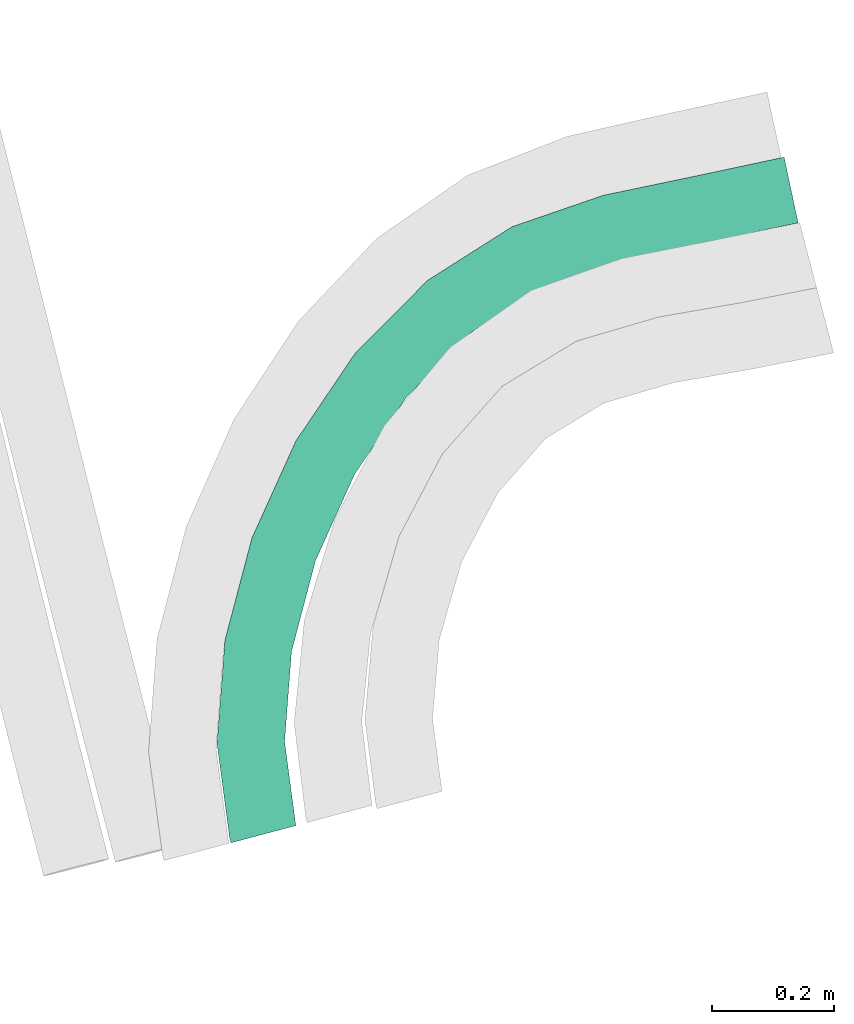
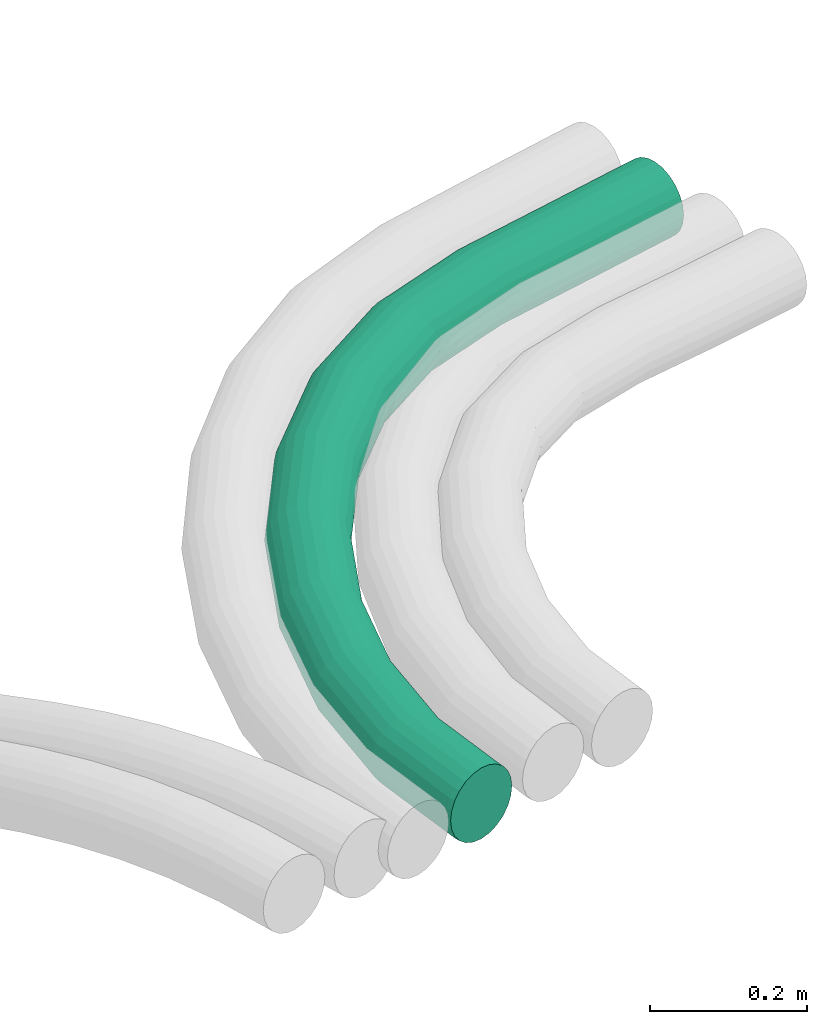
# One storey, part 5 of 6: 1 flow segment.
"""IFC2X3 building model written with IfcOpenShell, lengths in centimetres."""

from ifc_helpers import new_model, entity, si_unit, converted_unit, derived_unit, direction, frame, origin, place, context, subcontext, project, spatial, faceted_brep, type_object, element, save


model = new_model("IFC2X3")

# Units and contexts
model_context = context("Model", 3, precision=0.001, world=origin(), true_north=direction((6.12303176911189e-17, 1.0)))
body_context = subcontext(model_context, "Body", "Model", "MODEL_VIEW")
ifc_project = project(units=[si_unit("LENGTHUNIT", "METRE", prefix="CENTI"), si_unit("AREAUNIT", "SQUARE_METRE"), si_unit("VOLUMEUNIT", "CUBIC_METRE"), converted_unit("PLANEANGLEUNIT", "DEGREE", entity("IfcRatioMeasure", 0.0174532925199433), si_unit("PLANEANGLEUNIT", "RADIAN"), dimensions=[0, 0, 0, 0, 0, 0, 0]), si_unit("MASSUNIT", "GRAM", prefix="KILO"), derived_unit("MASSDENSITYUNIT", [(si_unit("MASSUNIT", "GRAM", prefix="KILO"), 1), (si_unit("LENGTHUNIT", "METRE"), -3)]), si_unit("TIMEUNIT", "SECOND"), si_unit("FREQUENCYUNIT", "HERTZ"), si_unit("THERMODYNAMICTEMPERATUREUNIT", "DEGREE_CELSIUS"), derived_unit("THERMALTRANSMITTANCEUNIT", [(si_unit("MASSUNIT", "GRAM", prefix="KILO"), 1), (si_unit("THERMODYNAMICTEMPERATUREUNIT", "KELVIN"), -1), (si_unit("TIMEUNIT", "SECOND"), -3)]), derived_unit("VOLUMETRICFLOWRATEUNIT", [(si_unit("LENGTHUNIT", "METRE"), 3), (si_unit("TIMEUNIT", "SECOND"), -1)]), si_unit("ELECTRICCURRENTUNIT", "AMPERE"), si_unit("ELECTRICVOLTAGEUNIT", "VOLT"), si_unit("POWERUNIT", "WATT"), si_unit("FORCEUNIT", "NEWTON"), si_unit("ILLUMINANCEUNIT", "LUX"), si_unit("LUMINOUSFLUXUNIT", "LUMEN"), si_unit("LUMINOUSINTENSITYUNIT", "CANDELA"), derived_unit("USERDEFINED", [(si_unit("MASSUNIT", "GRAM", prefix="KILO"), -1), (si_unit("LENGTHUNIT", "METRE"), -2), (si_unit("TIMEUNIT", "SECOND"), 3), (si_unit("LUMINOUSFLUXUNIT", "LUMEN"), 1)]), derived_unit("LINEARVELOCITYUNIT", [(si_unit("LENGTHUNIT", "METRE"), 1), (si_unit("TIMEUNIT", "SECOND"), -1)]), si_unit("PRESSUREUNIT", "PASCAL"), derived_unit("USERDEFINED", [(si_unit("LENGTHUNIT", "METRE"), -2), (si_unit("MASSUNIT", "GRAM", prefix="KILO"), 1), (si_unit("TIMEUNIT", "SECOND"), -2)])], contexts=[model_context])

# Site, building, storey
site_placement = place(None, origin())
site = spatial("IfcSite", under=ifc_project, at=site_placement, Name="Default", CompositionType="ELEMENT")
building_placement = place(site_placement, origin())
building = spatial("IfcBuilding", under=site, at=building_placement, Name="CAGE 03", CompositionType="ELEMENT")
storey_placement = place(building_placement, frame((0.0, 0.0, -23.0)))
storey = spatial("IfcBuildingStorey", under=building, at=storey_placement, Name="+3.77", CompositionType="ELEMENT", Elevation=-23.0000000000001)

# Flow segment
duct_segment_type = type_object("IfcDuctSegmentType", Name="Gaine flexible circulaire:Flex - Round", PredefinedType="FLEXIBLESEGMENT")
flow_segment_placement = place(storey_placement, frame((11590.4221558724, 3542.11011800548, -79.1595272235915)))
element("IfcFlowSegment", 1, at=flow_segment_placement, inside=storey, type_object=duct_segment_type, Name="Gaine flexible circulaire:Flex - Round", ObjectType="Gaine flexible circulaire:Flex - Round", context=body_context, shape_type="Brep", body=[
    faceted_brep([(3.15594662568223, 0.348971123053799, 8.4095272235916), (2.62496367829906, 0.207709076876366, 7.08303197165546), (2.44385528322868, 0.15952722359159, 5.6595272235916), (2.62496367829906, 0.207709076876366, 4.23602247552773), (3.15594662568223, 0.348971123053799, 2.9095272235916), (4.00061851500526, 0.573686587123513, 1.77043992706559), (5.10141635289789, 0.866541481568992, 0.896387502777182), (6.38332258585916, 1.20757822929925, 0.346935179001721), (7.75897742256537, 1.57355573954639, 0.159527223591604), (9.13463225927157, 1.93953324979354, 0.346935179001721), (10.4165384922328, 2.2805699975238, 0.896387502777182), (11.5173363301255, 2.57342489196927, 1.77043992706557), (12.3620082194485, 2.79814035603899, 2.90952722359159), (12.8929911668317, 2.93940240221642, 4.23602247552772), (13.0740995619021, 2.9875842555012, 5.65952722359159), (12.8929911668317, 2.93940240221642, 7.08303197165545), (12.3620082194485, 2.79814035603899, 8.40952722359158), (11.5173363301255, 2.57342489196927, 9.5486145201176), (10.4165384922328, 2.2805699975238, 10.422666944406), (9.13463225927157, 1.93953324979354, 10.9721192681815), (7.75897742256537, 1.57355573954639, 11.1595272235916), (6.38332258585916, 1.20757822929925, 10.9721192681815), (5.10141635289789, 0.866541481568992, 10.422666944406), (4.00061851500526, 0.573686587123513, 9.54861452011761), (2.20851179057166, 1.04414828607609, 5.6595272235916), (2.39269804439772, 1.08076092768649, 4.2360224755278), (2.93270481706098, 1.18810376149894, 2.90952722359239), (3.79173153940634, 1.35886155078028, 1.77043992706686), (4.91123695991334, 1.58139743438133, 0.896387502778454), (6.2149286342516, 1.84054595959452, 0.346935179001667), (7.61396212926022, 2.1186465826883, 0.159527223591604), (9.01299562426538, 2.39674720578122, 0.346935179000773), (10.3166872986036, 2.65589573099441, 0.896387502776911), (11.4361927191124, 2.87843161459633, 1.77043992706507), (12.835226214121, 3.15653223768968, 4.23602247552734), (13.0194124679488, 3.19314487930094, 5.65952722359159), (12.2952194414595, 3.0491894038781, 2.90952722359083), (12.2952194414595, 3.0491894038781, 8.4095272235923), (11.4361927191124, 2.87843161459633, 9.54861452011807), (12.835226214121, 3.15653223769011, 7.08303197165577), (9.01299562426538, 2.39674720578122, 10.9721192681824), (7.61396212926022, 2.1186465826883, 11.1595272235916), (10.3166872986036, 2.65589573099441, 10.4226669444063), (6.2149286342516, 1.84054595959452, 10.9721192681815), (4.91123695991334, 1.58139743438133, 10.4226669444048), (3.79173153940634, 1.35886155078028, 9.54861452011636), (2.93270481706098, 1.18810376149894, 8.40952722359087), (2.39269804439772, 1.08076092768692, 7.08303197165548), (92.8875985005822, 112.274628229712, 5.6595272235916), (92.9266917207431, 112.091343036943, 7.08303197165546), (93.0413072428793, 111.553978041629, 8.4095272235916), (93.2236342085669, 110.699153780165, 9.54861452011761), (93.4612473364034, 109.585125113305, 10.422666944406), (93.7379536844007, 108.287811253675, 10.9721192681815), (94.0348961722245, 106.895621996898, 11.1595272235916), (94.3318386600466, 105.503432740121, 10.9721192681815), (94.6085450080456, 104.206118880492, 10.422666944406), (94.8461581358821, 103.092090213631, 9.5486145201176), (95.0284851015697, 102.237265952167, 8.40952722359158), (95.1431006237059, 101.699900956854, 7.08303197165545), (95.1821938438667, 101.516615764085, 5.65952722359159), (95.1431006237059, 101.699900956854, 4.23602247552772), (95.0284851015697, 102.237265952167, 2.90952722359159), (94.8461581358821, 103.092090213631, 1.77043992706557), (94.6085450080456, 104.206118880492, 0.896387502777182), (94.3318386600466, 105.503432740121, 0.346935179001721), (94.0348961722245, 106.895621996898, 0.159527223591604), (93.7379536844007, 108.287811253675, 0.346935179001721), (93.4612473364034, 109.585125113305, 0.896387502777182), (93.2236342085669, 110.699153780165, 1.77043992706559), (93.0413072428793, 111.553978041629, 2.9095272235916), (92.9266917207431, 112.091343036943, 4.23602247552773), (0.15952722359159, 16.4258772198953, 5.6595272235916), (0.347889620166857, 16.4311395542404, 4.23602247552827), (0.900140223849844, 16.4465679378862, 2.90952722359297), (1.77864406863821, 16.4711109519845, 1.7704399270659), (2.92353256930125, 16.5030960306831, 0.896387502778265), (4.25678346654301, 16.5403434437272, 0.346935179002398), (5.6875379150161, 16.5803148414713, 0.159527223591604), (7.11829236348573, 16.6202862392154, 0.346935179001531), (8.45154326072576, 16.6575336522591, 0.896387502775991), (9.59643176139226, 16.6895187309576, 1.77043992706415), (10.4749356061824, 16.7140617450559, 2.90952722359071), (11.0271862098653, 16.7294901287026, 4.23602247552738), (11.2155486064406, 16.7347524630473, 5.65952722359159), (11.0271862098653, 16.7294901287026, 7.08303197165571), (10.4749356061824, 16.7140617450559, 8.40952722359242), (9.59643176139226, 16.6895187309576, 9.548614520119), (7.11829236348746, 16.6202862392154, 10.9721192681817), (5.6875379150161, 16.5803148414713, 11.1595272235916), (8.45154326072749, 16.6575336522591, 10.4226669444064), (4.25678346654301, 16.5403434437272, 10.9721192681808), (2.92353256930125, 16.5030960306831, 10.422666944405), (1.77864406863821, 16.4711109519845, 9.54861452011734), (0.900140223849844, 16.4465679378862, 8.40952722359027), (0.347889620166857, 16.4311395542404, 7.08303197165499), (1.45268056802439, 33.281522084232, 5.6595272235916), (1.63823445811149, 33.250176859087, 4.23602247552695), (2.18225093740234, 33.158277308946, 2.90952722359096), (3.04765618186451, 33.012086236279, 1.77043992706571), (4.17547425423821, 32.8215663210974, 0.89638750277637), (5.48884621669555, 32.5997011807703, 0.346935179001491), (6.89826794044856, 32.3616105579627, 0.159527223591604), (8.30768966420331, 32.1235199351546, 0.346935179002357), (9.62106162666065, 31.9016547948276, 0.896387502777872), (10.7488796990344, 31.7111348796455, 1.77043992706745), (11.6142849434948, 31.564943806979, 2.90952722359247), (12.1583014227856, 31.4730442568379, 4.2360224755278), (12.3438553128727, 31.4416990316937, 5.65952722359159), (12.1583014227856, 31.4730442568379, 7.0830319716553), (11.6142849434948, 31.564943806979, 8.40952722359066), (10.7488796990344, 31.7111348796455, 9.54861452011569), (8.30768966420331, 32.1235199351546, 10.9721192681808), (6.89826794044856, 32.3616105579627, 11.1595272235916), (9.62106162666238, 31.9016547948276, 10.4226669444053), (5.48884621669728, 32.5997011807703, 10.9721192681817), (4.17547425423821, 32.8215663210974, 10.4226669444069), (3.04765618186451, 33.012086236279, 9.54861452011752), (2.18225093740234, 33.158277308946, 8.40952722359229), (1.63823445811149, 33.250176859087, 7.08303197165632), (5.86547590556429, 49.9956060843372, 5.6595272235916), (6.04267141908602, 49.9326023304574, 4.23602247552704), (6.56218237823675, 49.7478846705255, 2.90952722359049), (7.38860496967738, 49.4540413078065, 1.77043992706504), (8.46561985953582, 49.0710971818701, 0.896387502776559), (9.719830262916, 48.625149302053, 0.346935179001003), (11.0657638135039, 48.1465882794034, 0.159527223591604), (12.411697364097, 47.6680272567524, 0.346935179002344), (13.6659077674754, 47.2220793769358, 0.896387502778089), (14.7429226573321, 46.8391352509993, 1.77043992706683), (15.5693452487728, 46.5452918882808, 2.90952722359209), (16.0888562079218, 46.3605742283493, 4.23602247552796), (16.2660517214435, 46.2975704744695, 5.65952722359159), (16.0888562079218, 46.3605742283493, 7.08303197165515), (15.5693452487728, 46.5452918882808, 8.40952722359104), (14.7429226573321, 46.8391352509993, 9.54861452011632), (12.411697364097, 47.6680272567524, 10.9721192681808), (11.0657638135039, 48.1465882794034, 11.1595272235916), (13.6659077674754, 47.2220793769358, 10.4226669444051), (9.719830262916, 48.625149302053, 10.9721192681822), (8.46561985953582, 49.0710971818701, 10.4226669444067), (7.38860496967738, 49.4540413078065, 9.54861452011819), (6.56218237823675, 49.7478846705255, 8.40952722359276), (6.04267141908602, 49.9326023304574, 7.08303197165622), (13.0462294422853, 65.8569693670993, 5.6595272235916), (13.2104121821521, 65.7652220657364, 4.23602247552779), (13.691771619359, 65.4962325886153, 2.90952722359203), (14.4575039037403, 65.0683321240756, 1.77043992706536), (15.45542564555, 64.5106813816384, 0.896387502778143), (16.6175301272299, 63.8612833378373, 0.346935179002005), (17.864621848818, 63.1643933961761, 0.159527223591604), (19.1117135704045, 62.4675034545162, 0.346935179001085), (20.2738180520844, 61.8181054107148, 0.896387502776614), (21.271739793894, 61.2604546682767, 1.77043992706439), (22.0374720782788, 60.8325542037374, 2.90952722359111), (22.5188315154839, 60.5635647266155, 4.23602247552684), (22.6830142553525, 60.4718174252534, 5.65952722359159), (22.5188315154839, 60.5635647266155, 7.08303197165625), (22.0374720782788, 60.8325542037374, 8.40952722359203), (21.271739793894, 61.2604546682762, 9.54861452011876), (19.1117135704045, 62.4675034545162, 10.9721192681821), (17.864621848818, 63.1643933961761, 11.1595272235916), (20.2738180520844, 61.8181054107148, 10.4226669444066), (16.6175301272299, 63.8612833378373, 10.9721192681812), (15.45542564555, 64.5106813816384, 10.4226669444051), (14.4575039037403, 65.0683321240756, 9.54861452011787), (13.691771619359, 65.4962325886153, 8.40952722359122), (13.2104121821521, 65.7652220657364, 7.08303197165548), (22.7011657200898, 80.1512054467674, 5.6595272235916), (22.846603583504, 80.0317061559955, 4.23602247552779), (23.2730058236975, 79.6813519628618, 2.90952722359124), (23.9513138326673, 79.1240189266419, 1.77043992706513), (24.8353020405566, 78.3976883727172, 0.896387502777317), (25.8647281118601, 77.5518585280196, 0.346935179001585), (26.9694383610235, 76.6441712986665, 0.159527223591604), (28.0741486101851, 75.7364840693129, 0.346935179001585), (29.1035746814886, 74.8906542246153, 0.896387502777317), (29.9875628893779, 74.164323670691, 1.770439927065), (30.6658708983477, 73.6069906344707, 2.90952722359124), (31.0922731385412, 73.2566364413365, 4.23602247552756), (31.2377110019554, 73.137137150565, 5.65952722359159), (31.0922731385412, 73.2566364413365, 7.08303197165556), (30.6658708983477, 73.6069906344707, 8.40952722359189), (29.9875628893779, 74.164323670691, 9.54861452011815), (28.0741486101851, 75.7364840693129, 10.9721192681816), (26.9694383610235, 76.6441712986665, 11.1595272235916), (29.1035746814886, 74.8906542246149, 10.4226669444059), (25.8647281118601, 77.5518585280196, 10.9721192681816), (24.8353020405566, 78.3976883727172, 10.4226669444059), (23.9513138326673, 79.1240189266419, 9.54861452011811), (23.2730058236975, 79.6813519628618, 8.409527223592), (22.846603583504, 80.0317061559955, 7.08303197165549), (34.5853612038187, 92.1270887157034, 5.6595272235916), (34.7035797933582, 91.9801601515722, 4.23602247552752), (35.0501791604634, 91.5493873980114, 2.90952722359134), (35.6015391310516, 90.8641269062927, 1.77043992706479), (36.3200854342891, 89.9710780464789, 0.89638750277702), (37.1568503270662, 88.9311006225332, 0.346935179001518), (38.0548096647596, 87.8150673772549, 0.159527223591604), (38.9527690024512, 86.6990341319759, 0.346935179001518), (39.7895338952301, 85.6590567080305, 0.896387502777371), (40.5080801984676, 84.7660078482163, 1.7704399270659), (41.0594401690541, 84.0807473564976, 2.90952722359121), (41.406039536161, 83.6499746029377, 4.23602247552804), (41.5242581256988, 83.5030460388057, 5.65952722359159), (41.406039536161, 83.6499746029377, 7.08303197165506), (41.0594401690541, 84.0807473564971, 8.40952722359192), (40.5080801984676, 84.7660078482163, 9.54861452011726), (38.9527690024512, 86.6990341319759, 10.9721192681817), (38.0548096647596, 87.8150673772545, 11.1595272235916), (39.7895338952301, 85.6590567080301, 10.4226669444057), (37.1568503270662, 88.9311006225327, 10.9721192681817), (36.3200854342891, 89.9710780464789, 10.4226669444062), (35.6015391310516, 90.8641269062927, 9.54861452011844), (35.0501791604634, 91.5493873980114, 8.40952722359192), (34.7035797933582, 91.9801601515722, 7.08303197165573), (48.39303024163, 100.89649052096, 5.6595272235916), (48.4748847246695, 100.726466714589, 4.23602247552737), (48.7148699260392, 100.227982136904, 2.90952722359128), (49.0966312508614, 99.435007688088, 1.77043992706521), (49.5941522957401, 98.4015832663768, 0.896387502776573), (50.1735278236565, 97.1981350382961, 0.346935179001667), (50.7952743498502, 95.906676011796, 0.159527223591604), (51.4170208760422, 94.6152169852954, 0.346935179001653), (51.9963964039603, 93.4117687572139, 0.896387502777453), (52.493917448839, 92.3783443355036, 1.77043992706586), (52.8756787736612, 91.5853698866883, 2.90952722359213), (53.1156639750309, 91.086885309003, 4.23602247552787), (53.1975184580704, 90.9168615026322, 5.65952722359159), (53.1156639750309, 91.086885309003, 7.08303197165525), (52.8756787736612, 91.5853698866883, 8.409527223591), (52.493917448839, 92.3783443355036, 9.5486145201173), (51.4170208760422, 94.6152169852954, 10.9721192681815), (50.7952743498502, 95.906676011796, 11.1595272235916), (51.9963964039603, 93.4117687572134, 10.4226669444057), (50.1735278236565, 97.1981350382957, 10.9721192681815), (49.5941522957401, 98.4015832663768, 10.4226669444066), (49.0966312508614, 99.435007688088, 9.54861452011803), (48.7148699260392, 100.227982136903, 8.40952722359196), (48.4748847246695, 100.726466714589, 7.0830319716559), (63.3284934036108, 106.037724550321, 5.6595272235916), (63.3783381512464, 105.856682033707, 4.23602247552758), (63.5244755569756, 105.325892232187, 2.90952722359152), (63.756946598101, 104.481527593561, 1.77043992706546), (64.0599087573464, 103.381130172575, 0.896387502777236), (64.4127156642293, 102.099690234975, 0.346935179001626), (64.7913241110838, 100.72453579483, 0.159527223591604), (65.1699325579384, 99.3493813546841, 0.346935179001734), (65.5227394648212, 98.0679414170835, 0.896387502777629), (65.8257016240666, 96.9675439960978, 1.77043992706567), (66.058172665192, 96.1231793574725, 2.90952722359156), (66.2043100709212, 95.5923895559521, 4.23602247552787), (66.2541548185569, 95.4113470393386, 5.65952722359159), (66.2043100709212, 95.5923895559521, 7.08303197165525), (66.058172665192, 96.1231793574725, 8.40952722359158), (65.8257016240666, 96.9675439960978, 9.54861452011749), (65.1699325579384, 99.3493813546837, 10.9721192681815), (64.7913241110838, 100.72453579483, 11.1595272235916), (65.5227394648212, 98.0679414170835, 10.4226669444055), (64.4127156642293, 102.099690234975, 10.9721192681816), (64.0599087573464, 103.381130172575, 10.422666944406), (63.756946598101, 104.481527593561, 9.54861452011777), (63.5244755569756, 105.325892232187, 8.40952722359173), (63.3783381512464, 105.856682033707, 7.08303197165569), (78.3273011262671, 108.977413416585, 4.23602247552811), (78.4407507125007, 108.439799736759, 2.90952722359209), (78.28860558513, 109.16078343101, 5.6595272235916), (78.6212229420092, 107.584579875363, 1.77043992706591), (79.1303104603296, 105.172121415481, 0.346935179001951), (79.4242322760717, 103.779287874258, 0.159527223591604), (78.8564189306, 106.470035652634, 0.896387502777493), (79.7181540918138, 102.386454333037, 0.346935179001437), (79.9920456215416, 101.088540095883, 0.896387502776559), (80.2272416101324, 99.973995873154, 1.77043992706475), (80.4077138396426, 99.1187760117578, 2.90952722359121), (80.5211634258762, 98.5811623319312, 4.23602247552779), (80.5598589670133, 98.3977923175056, 5.65952722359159), (80.5211634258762, 98.5811623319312, 7.08303197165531), (80.4077138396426, 99.1187760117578, 8.40952722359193), (80.2272416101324, 99.973995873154, 9.54861452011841), (79.9920456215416, 101.088540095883, 10.4226669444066), (79.7181540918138, 102.386454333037, 10.9721192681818), (79.4242322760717, 103.779287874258, 11.1595272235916), (79.1303104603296, 105.172121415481, 10.9721192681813), (78.8564189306, 106.470035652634, 10.4226669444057), (78.6212229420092, 107.584579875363, 9.54861452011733), (78.4407507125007, 108.439799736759, 8.40952722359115), (78.3273011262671, 108.977413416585, 7.08303197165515)], [[[0, 1, 2, 3, 4, 5, 6, 7, 8, 9, 10, 11, 12, 13, 14, 15, 16, 17, 18, 19, 20, 21, 22, 23]], [[2, 24, 25, 3]], [[3, 25, 26, 4]], [[4, 26, 27, 5]], [[6, 28, 29, 7]], [[7, 29, 30, 8]], [[5, 27, 28, 6]], [[31, 32, 10, 9]], [[30, 31, 9, 8]], [[10, 32, 33, 11]], [[34, 35, 14, 13]], [[36, 34, 13, 12]], [[11, 33, 36, 12]], [[16, 37, 38, 17]], [[39, 37, 16, 15]], [[14, 35, 39, 15]], [[40, 41, 20, 19]], [[42, 40, 19, 18]], [[38, 42, 18, 17]], [[22, 21, 43, 44]], [[23, 22, 44, 45]], [[20, 41, 43, 21]], [[1, 0, 46, 47]], [[2, 1, 47, 24]], [[45, 46, 0, 23]], [[48, 49, 50, 51, 52, 53, 54, 55, 56, 57, 58, 59, 60, 61, 62, 63, 64, 65, 66, 67, 68, 69, 70, 71]], [[24, 72, 73, 25]], [[25, 73, 74, 26]], [[26, 74, 75, 27]], [[27, 75, 76, 28]], [[28, 76, 77, 29]], [[78, 30, 29, 77]], [[79, 80, 32, 31]], [[78, 79, 31, 30]], [[81, 33, 32, 80]], [[82, 83, 34, 36]], [[82, 36, 33, 81]], [[84, 35, 34, 83]], [[85, 86, 37, 39]], [[84, 85, 39, 35]], [[38, 37, 86, 87]], [[88, 89, 41, 40]], [[90, 88, 40, 42]], [[87, 90, 42, 38]], [[43, 41, 89, 91]], [[44, 43, 91, 92]], [[45, 44, 92, 93]], [[47, 46, 94, 95]], [[24, 47, 95, 72]], [[93, 94, 46, 45]], [[73, 72, 96, 97]], [[74, 73, 97, 98]], [[98, 99, 75, 74]], [[76, 75, 99, 100]], [[77, 76, 100, 101]], [[78, 77, 101, 102]], [[103, 104, 80, 79]], [[102, 103, 79, 78]], [[81, 80, 104, 105]], [[106, 107, 83, 82]], [[105, 106, 82, 81]], [[84, 83, 107, 108]], [[109, 110, 86, 85]], [[108, 109, 85, 84]], [[111, 87, 86, 110]], [[112, 113, 89, 88]], [[114, 112, 88, 90]], [[114, 90, 87, 111]], [[89, 113, 115, 91]], [[91, 115, 116, 92]], [[117, 93, 92, 116]], [[94, 118, 119, 95]], [[95, 119, 96, 72]], [[118, 94, 93, 117]], [[97, 96, 120, 121]], [[98, 97, 121, 122]], [[122, 123, 99, 98]], [[100, 99, 123, 124]], [[101, 100, 124, 125]], [[102, 101, 125, 126]], [[127, 128, 104, 103]], [[126, 127, 103, 102]], [[105, 104, 128, 129]], [[130, 131, 107, 106]], [[129, 130, 106, 105]], [[108, 107, 131, 132]], [[133, 134, 110, 109]], [[132, 133, 109, 108]], [[135, 111, 110, 134]], [[136, 137, 113, 112]], [[138, 136, 112, 114]], [[138, 114, 111, 135]], [[113, 137, 139, 115]], [[115, 139, 140, 116]], [[141, 117, 116, 140]], [[118, 142, 143, 119]], [[119, 143, 120, 96]], [[142, 118, 117, 141]], [[120, 144, 145, 121]], [[121, 145, 146, 122]], [[122, 146, 147, 123]], [[123, 147, 148, 124]], [[124, 148, 149, 125]], [[150, 126, 125, 149]], [[151, 152, 128, 127]], [[150, 151, 127, 126]], [[153, 129, 128, 152]], [[154, 155, 131, 130]], [[154, 130, 129, 153]], [[156, 132, 131, 155]], [[157, 158, 134, 133]], [[156, 157, 133, 132]], [[135, 134, 158, 159]], [[160, 161, 137, 136]], [[162, 160, 136, 138]], [[159, 162, 138, 135]], [[139, 137, 161, 163]], [[140, 139, 163, 164]], [[141, 140, 164, 165]], [[143, 142, 166, 167]], [[120, 143, 167, 144]], [[165, 166, 142, 141]], [[144, 168, 169, 145]], [[145, 169, 170, 146]], [[146, 170, 171, 147]], [[147, 171, 172, 148]], [[148, 172, 173, 149]], [[174, 150, 149, 173]], [[175, 176, 152, 151]], [[174, 175, 151, 150]], [[177, 153, 152, 176]], [[178, 179, 155, 154]], [[178, 154, 153, 177]], [[180, 156, 155, 179]], [[181, 182, 158, 157]], [[180, 181, 157, 156]], [[159, 158, 182, 183]], [[184, 185, 161, 160]], [[186, 184, 160, 162]], [[183, 186, 162, 159]], [[163, 161, 185, 187]], [[164, 163, 187, 188]], [[165, 164, 188, 189]], [[167, 166, 190, 191]], [[144, 167, 191, 168]], [[189, 190, 166, 165]], [[168, 192, 193, 169]], [[169, 193, 194, 170]], [[170, 194, 195, 171]], [[171, 195, 196, 172]], [[172, 196, 197, 173]], [[198, 174, 173, 197]], [[199, 200, 176, 175]], [[198, 199, 175, 174]], [[201, 177, 176, 200]], [[202, 203, 179, 178]], [[202, 178, 177, 201]], [[204, 180, 179, 203]], [[205, 206, 182, 181]], [[204, 205, 181, 180]], [[183, 182, 206, 207]], [[208, 209, 185, 184]], [[210, 208, 184, 186]], [[207, 210, 186, 183]], [[187, 185, 209, 211]], [[188, 187, 211, 212]], [[189, 188, 212, 213]], [[191, 190, 214, 215]], [[168, 191, 215, 192]], [[213, 214, 190, 189]], [[192, 216, 217, 193]], [[193, 217, 218, 194]], [[194, 218, 219, 195]], [[195, 219, 220, 196]], [[196, 220, 221, 197]], [[222, 198, 197, 221]], [[223, 224, 200, 199]], [[222, 223, 199, 198]], [[225, 201, 200, 224]], [[226, 227, 203, 202]], [[226, 202, 201, 225]], [[228, 204, 203, 227]], [[229, 230, 206, 205]], [[228, 229, 205, 204]], [[207, 206, 230, 231]], [[232, 233, 209, 208]], [[234, 232, 208, 210]], [[231, 234, 210, 207]], [[211, 209, 233, 235]], [[212, 211, 235, 236]], [[213, 212, 236, 237]], [[215, 214, 238, 239]], [[192, 215, 239, 216]], [[237, 238, 214, 213]], [[217, 216, 240, 241]], [[218, 217, 241, 242]], [[242, 243, 219, 218]], [[220, 219, 243, 244]], [[221, 220, 244, 245]], [[222, 221, 245, 246]], [[247, 248, 224, 223]], [[246, 247, 223, 222]], [[225, 224, 248, 249]], [[250, 251, 227, 226]], [[249, 250, 226, 225]], [[228, 227, 251, 252]], [[253, 254, 230, 229]], [[252, 253, 229, 228]], [[255, 231, 230, 254]], [[256, 257, 233, 232]], [[258, 256, 232, 234]], [[258, 234, 231, 255]], [[233, 257, 259, 235]], [[235, 259, 260, 236]], [[261, 237, 236, 260]], [[238, 262, 263, 239]], [[239, 263, 240, 216]], [[262, 238, 237, 261]], [[264, 265, 242, 241]], [[266, 264, 241, 240]], [[265, 267, 243, 242]], [[268, 269, 246, 245]], [[270, 268, 245, 244]], [[267, 270, 244, 243]], [[247, 246, 269, 271]], [[248, 247, 271, 272]], [[249, 248, 272, 273]], [[251, 250, 274, 275]], [[252, 251, 275, 276]], [[273, 274, 250, 249]], [[252, 276, 277, 253]], [[253, 277, 278, 254]], [[279, 255, 254, 278]], [[255, 279, 280, 258]], [[258, 280, 281, 256]], [[282, 257, 256, 281]], [[283, 284, 260, 259]], [[282, 283, 259, 257]], [[285, 261, 260, 284]], [[286, 287, 263, 262]], [[286, 262, 261, 285]], [[266, 240, 263, 287]], [[71, 70, 265, 264]], [[48, 71, 264, 266]], [[69, 267, 265, 70]], [[270, 68, 67, 268]], [[268, 67, 66, 269]], [[68, 270, 267, 69]], [[269, 66, 65, 271]], [[271, 65, 64, 272]], [[63, 273, 272, 64]], [[274, 62, 61, 275]], [[275, 61, 60, 276]], [[62, 274, 273, 63]], [[277, 276, 60, 59]], [[278, 277, 59, 58]], [[58, 57, 279, 278]], [[281, 280, 56, 55]], [[282, 281, 55, 54]], [[57, 56, 280, 279]], [[283, 282, 54, 53]], [[284, 283, 53, 52]], [[285, 284, 52, 51]], [[287, 286, 50, 49]], [[266, 287, 49, 48]], [[51, 50, 286, 285]]]),
])

save(model, "model.ifc")
